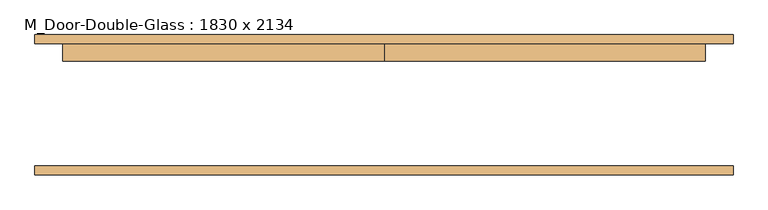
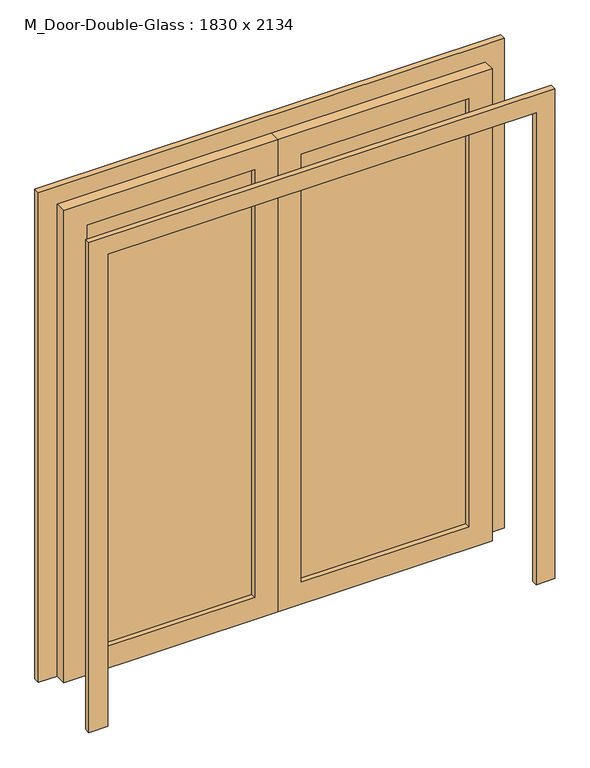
"""IFC4 building model written with IfcOpenShell, lengths in millimetres: door geometry, M_Door-Double-Glass : 1830 x 2134."""

import ifcopenshell
import ifcopenshell.guid

model = None  # the IFC model being written
_history = None  # IfcOwnerHistory: only IFC2X3 demands one
_inside = {}  # id of a spatial element -> (the spatial element, [elements in it])
_under = {}  # id of a project, library or spatial element -> (it, [spatial elements below it])
_declared = {}  # id of a project -> (the project, [libraries it declares])
_typed = {}  # id of a type object -> (the type object, [elements of that type])
_made_of = {}  # id of a material, layer set ... -> (it, [elements and type objects made of it])


def new_model(schema):
    """Start an empty IFC model of exactly this schema.

    Asked for "IFC4X3", IfcOpenShell would pick the latest addendum, in which some entities
    have other attributes; the version numbers below select the first issue.
    IFC2X3 requires an IfcOwnerHistory on every rooted entity: one is made here for all.
    """
    global model, _history
    if schema == "IFC4X3":
        model = ifcopenshell.file(schema_version=(4, 3, 0, 0))
    else:
        model = ifcopenshell.file(schema=schema)
    _inside.clear()
    _under.clear()
    _declared.clear()
    _typed.clear()
    _made_of.clear()
    _history = None
    if model.schema == "IFC2X3":
        org = make("IfcOrganization", Name="unknown")
        user = make(
            "IfcPersonAndOrganization",
            ThePerson=make("IfcPerson", FamilyName="unknown"),
            TheOrganization=org,
        )
        app = make(
            "IfcApplication",
            ApplicationDeveloper=org,
            Version="unknown",
            ApplicationFullName="unknown",
            ApplicationIdentifier="unknown",
        )
        _history = make(
            "IfcOwnerHistory",
            OwningUser=user,
            OwningApplication=app,
            ChangeAction="ADDED",
            CreationDate=0,
        )
    return model


def make(cls, **values):
    """One entity of the class cls with the attributes given. An attribute that is None is left unset."""
    return model.create_entity(
        cls, **{name: value for name, value in values.items() if value is not None}
    )


def rooted(cls, **values):
    """An entity with a GlobalId (a new one), such as an element, a storey or a relation."""
    return make(cls, GlobalId=ifcopenshell.guid.new(), OwnerHistory=_history, **values)


def si_unit(unit_type, name, prefix=None):
    """IfcSIUnit, for example si_unit("LENGTHUNIT", "METRE", prefix="MILLI")."""
    return make("IfcSIUnit", UnitType=unit_type, Prefix=prefix, Name=name)


def assignment(units):
    """IfcUnitAssignment: the units of a project."""
    return None if units is None else make("IfcUnitAssignment", Units=units)


def point(xyz):
    """IfcCartesianPoint."""
    return None if xyz is None else make("IfcCartesianPoint", Coordinates=xyz)


def direction(xyz):
    """IfcDirection."""
    return None if xyz is None else make("IfcDirection", DirectionRatios=xyz)


def frame(location, z_axis=None, x_axis=None):
    """IfcAxis2Placement3D, a coordinate frame: its origin and axes. An axis left out is left unset."""
    return make(
        "IfcAxis2Placement3D",
        Location=point(location),
        Axis=direction(z_axis),
        RefDirection=direction(x_axis),
    )


def origin():
    """The frame at (0, 0, 0) with its axes left unset."""
    return frame((0.0, 0.0, 0.0))


def place(relative_to, where):
    """IfcLocalPlacement: puts the frame where relative to a parent placement (None: the world)."""
    return make(
        "IfcLocalPlacement", PlacementRelTo=relative_to, RelativePlacement=where
    )


def context(
    kind, dimensions, precision=None, world=None, true_north=None, identifier=None
):
    """IfcGeometricRepresentationContext, for example the 3D "Model" context."""
    return make(
        "IfcGeometricRepresentationContext",
        ContextIdentifier=identifier,
        ContextType=kind,
        CoordinateSpaceDimension=dimensions,
        Precision=precision,
        WorldCoordinateSystem=world,
        TrueNorth=true_north,
    )


def project(units=None, contexts=None):
    """IfcProject with its units and contexts."""
    return rooted(
        "IfcProject",
        Name="project",
        RepresentationContexts=contexts,
        UnitsInContext=assignment(units),
    )


def spatial(cls, under=None, at=None, **own):
    """A site, building, storey or space (cls), placed at a placement, below another one or the project."""
    s = rooted(cls, ObjectPlacement=at, **own)
    if under is not None:
        _under.setdefault(under.id(), (under, []))[1].append(s)
    return s


def polyline(points):
    """IfcPolyline through the points."""
    return make("IfcPolyline", Points=[point(p) for p in points])


def outline(outer, holes=None, kind="AREA"):
    """IfcArbitraryClosedProfileDef: a profile drawn as a closed curve; with holes, ...WithVoids."""
    if holes is None:
        return make("IfcArbitraryClosedProfileDef", ProfileType=kind, OuterCurve=outer)
    return make(
        "IfcArbitraryProfileDefWithVoids",
        ProfileType=kind,
        OuterCurve=outer,
        InnerCurves=holes,
    )


def extrude(swept, where, along, depth):
    """IfcExtrudedAreaSolid: the profile swept, set in the frame where, extruded along a direction by depth."""
    return make(
        "IfcExtrudedAreaSolid",
        SweptArea=swept,
        Position=where,
        ExtrudedDirection=direction(along),
        Depth=depth,
    )


def shape(context_of_items, identifier, shape_type, items):
    """IfcShapeRepresentation: the items that make up one representation, for example the "Body"."""
    return make(
        "IfcShapeRepresentation",
        ContextOfItems=context_of_items,
        RepresentationIdentifier=identifier,
        RepresentationType=shape_type,
        Items=items,
    )


def source(mapping_origin, context_of_items, identifier, shape_type, items):
    """IfcRepresentationMap: a shape defined once, which mapped items show again and again."""
    return make(
        "IfcRepresentationMap",
        MappingOrigin=mapping_origin,
        MappedRepresentation=shape(context_of_items, identifier, shape_type, items),
    )


def transform(
    local_origin,
    x_axis=None,
    y_axis=None,
    z_axis=None,
    scale=None,
    scale2=None,
    scale3=None,
    uniform=True,
):
    """IfcCartesianTransformationOperator3D, or its non-uniform kind. x_axis, y_axis, z_axis: its Axis1, 2, 3."""
    if uniform:
        return make(
            "IfcCartesianTransformationOperator3D",
            Axis1=direction(x_axis),
            Axis2=direction(y_axis),
            LocalOrigin=point(local_origin),
            Scale=scale,
            Axis3=direction(z_axis),
        )
    return make(
        "IfcCartesianTransformationOperator3DnonUniform",
        Axis1=direction(x_axis),
        Axis2=direction(y_axis),
        LocalOrigin=point(local_origin),
        Scale=scale,
        Axis3=direction(z_axis),
        Scale2=scale2,
        Scale3=scale3,
    )


def mapped(mapping_source, mapping_target):
    """IfcMappedItem: shows the shape of a source again, moved by a transform."""
    return make(
        "IfcMappedItem", MappingSource=mapping_source, MappingTarget=mapping_target
    )


def made_of(thing, what):
    """Note that an element or type object is made of a material, layer set ...; save() writes the relation."""
    if what is not None:
        _made_of.setdefault(what.id(), (what, []))[1].append(thing)
    return thing


def element(
    cls,
    number,
    at=None,
    inside=None,
    cuts=None,
    type_object=None,
    material=None,
    context=None,
    identifier="Body",
    shape_type=None,
    held_by="IfcProductDefinitionShape",
    body=None,
    shapes=None,
    **own,
):
    """One element of the class cls, such as IfcWall. Its Tag is "e" and its number.

    at: its placement. inside: the storey or other place that contains it. cuts: it is an
    opening in that element (IfcRelVoidsElement). A single representation is given by context,
    identifier, shape_type and body (its items); several are given by shapes. held_by: the class
    of the entity that holds the representations. save() writes the other relations.
    """
    e = rooted(cls, Tag="e%d" % number, ObjectPlacement=at, **own)
    if body is not None:
        shapes = [shape(context, identifier, shape_type, body)]
    if shapes is not None:
        e.Representation = make(held_by, Representations=shapes)
    if inside is not None:
        _inside.setdefault(inside.id(), (inside, []))[1].append(e)
    if cuts is not None:
        rooted(
            "IfcRelVoidsElement", RelatingBuildingElement=cuts, RelatedOpeningElement=e
        )
    if type_object is not None:
        _typed.setdefault(type_object.id(), (type_object, []))[1].append(e)
    return made_of(e, material)


def aggregate(whole, parts):
    """IfcRelAggregates: a whole, such as a stair, and the parts it consists of."""
    return rooted("IfcRelAggregates", RelatingObject=whole, RelatedObjects=parts)


def save(model, path):
    """Write the relations noted so far, then the file.

    IfcRelAggregates (storeys below a building ...), IfcRelContainedInSpatialStructure (elements
    in a storey), IfcRelDefinesByType, IfcRelAssociatesMaterial and IfcRelDeclares: one each for
    every whole, place, type object, material and project.
    """
    for whole, parts in _under.values():
        aggregate(whole, parts)
    for where, things in _inside.values():
        rooted(
            "IfcRelContainedInSpatialStructure",
            RelatedElements=things,
            RelatingStructure=where,
        )
    for kind, things in _typed.values():
        rooted("IfcRelDefinesByType", RelatedObjects=things, RelatingType=kind)
    for what, things in _made_of.values():
        rooted("IfcRelAssociatesMaterial", RelatedObjects=things, RelatingMaterial=what)
    for by, libraries in _declared.values():
        rooted("IfcRelDeclares", RelatingContext=by, RelatedDefinitions=libraries)
    model.write(path)


def m_door_double_glass_1830_x_2134_8faf7e2f(model_context):
    return source(origin(), model_context, "Body", "SweptSolid", [
        extrude(outline(polyline([(2134.0, -915.0), (0.0, -915.0), (0.0, 0.0), (2134.0, 0.0), (2134.0, -915.0)]), holes=[polyline([(2034.0, -815.0), (2034.0, -100.0), (100.0, -100.0), (100.0, -815.0), (2034.0, -815.0)])]), frame((0.0, 127.38125, 0.0), z_axis=(0.0, 1.0, 0.0), x_axis=(0.0, 0.0, 1.0)), (0.0, 0.0, 1.0), 50.0),
        extrude(outline(polyline([(2134.0, 915.0), (2134.0, 0.0), (0.0, 0.0), (0.0, 915.0), (2134.0, 915.0)]), holes=[polyline([(2034.0, 815.0), (100.0, 815.0), (100.0, 100.0), (2034.0, 100.0), (2034.0, 815.0)])]), frame((0.0, 127.38125, 0.0), z_axis=(0.0, 1.0, 0.0), x_axis=(0.0, 0.0, 1.0)), (0.0, 0.0, 1.0), 50.0),
        extrude(outline(polyline([(100.0, 155.55625), (815.0, 155.55625), (815.0, 149.20625), (100.0, 149.20625), (100.0, 155.55625)])), frame((0.0, 0.0, 100.0), z_axis=(0.0, 0.0, 1.0), x_axis=(1.0, 0.0, 0.0)), (0.0, 0.0, 1.0), 1934.0),
        extrude(outline(polyline([(-815.0, 155.55625), (-100.0, 155.55625), (-100.0, 149.20625), (-815.0, 149.20625), (-815.0, 155.55625)])), frame((0.0, 0.0, 100.0), z_axis=(0.0, 0.0, 1.0), x_axis=(1.0, 0.0, 0.0)), (0.0, 0.0, 1.0), 1934.0),
        extrude(outline(polyline([(0.0, 995.0), (2214.0, 995.0), (2214.0, -995.0), (0.0, -995.0), (0.0, -915.0), (2134.0, -915.0), (2134.0, 915.0), (0.0, 915.0), (0.0, 995.0)])), frame((0.0, 177.38125, 0.0), z_axis=(0.0, 1.0, 0.0), x_axis=(0.0, 0.0, 1.0)), (0.0, 0.0, 1.0), 25.0),
        extrude(outline(polyline([(0.0, 995.0), (2214.0, 995.0), (2214.0, -995.0), (0.0, -995.0), (0.0, -915.0), (2134.0, -915.0), (2134.0, 915.0), (0.0, 915.0), (0.0, 995.0)])), frame((0.0, -197.61875, 0.0), z_axis=(0.0, 1.0, 0.0), x_axis=(0.0, 0.0, 1.0)), (0.0, 0.0, 1.0), 25.0),
    ])


if __name__ == "__main__":
    model = new_model("IFC4")
    model_context = context("Model", 3, world=origin())
    ifc_project = project(units=[si_unit("LENGTHUNIT", "METRE", prefix="MILLI")], contexts=[model_context])
    site = spatial("IfcSite", under=ifc_project)
    building = spatial("IfcBuilding", under=site)
    placement = place(None, origin())
    m_door_double_glass_1830_x_2134_shape = m_door_double_glass_1830_x_2134_8faf7e2f(model_context)
    element("IfcDoor", 1, ObjectType="M_Door-Double-Glass : 1830 x 2134", at=placement, inside=building, context=model_context, shape_type="MappedRepresentation", body=[
        mapped(m_door_double_glass_1830_x_2134_shape, transform((0.0, 0.0, 0.0), x_axis=(1.0, 0.0, 0.0), y_axis=(0.0, 1.0, 0.0), z_axis=(0.0, 0.0, 1.0))),
    ])
    save(model, "model.ifc")
